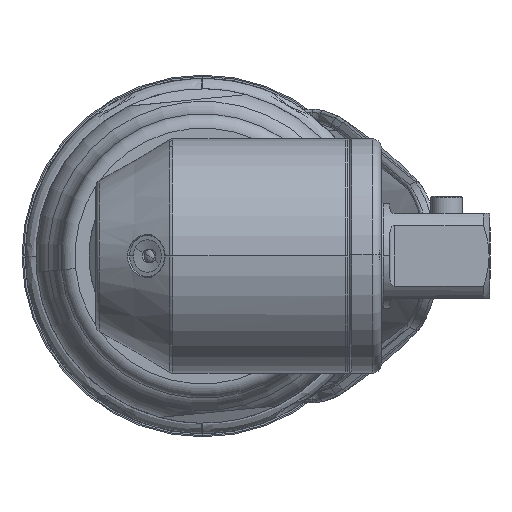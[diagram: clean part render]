
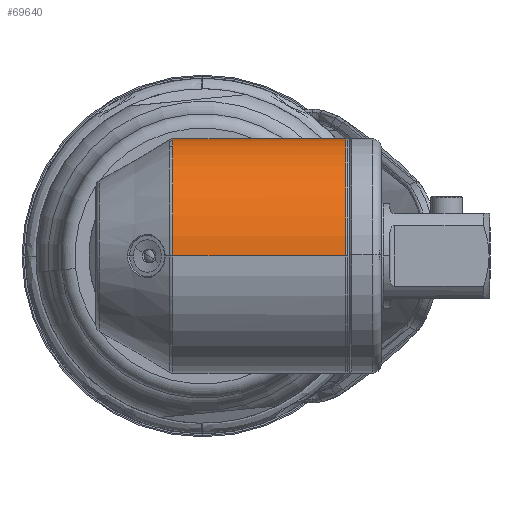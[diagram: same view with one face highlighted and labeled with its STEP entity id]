
A CAD part, left-side view. The second image highlights one B-rep face of the part: STEP entity #69640.
In plain terms, the highlighted cylindrical face has radius 13.081 mm (diameter 26.162 mm), a partial arc.
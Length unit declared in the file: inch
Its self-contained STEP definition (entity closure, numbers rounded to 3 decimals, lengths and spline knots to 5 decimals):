
#13964 = VERTEX_POINT ( 'NONE', #43917 ) ;
#13991 = VERTEX_POINT ( 'NONE', #43944 ) ;
#14472 = VERTEX_POINT ( 'NONE', #44565 ) ;
#14514 = VERTEX_POINT ( 'NONE', #44607 ) ;
#14524 = VERTEX_POINT ( 'NONE', #44619 ) ;
#26948 = EDGE_CURVE ( 'NONE', #13991, #14514, #34604, .T. ) ;
#26949 = EDGE_CURVE ( 'NONE', #14514, #14472, #34603, .T. ) ;
#26950 = EDGE_CURVE ( 'NONE', #14472, #13964, #38869, .T. ) ;
#26951 = EDGE_CURVE ( 'NONE', #13964, #14524, #34607, .T. ) ;
#26952 = EDGE_CURVE ( 'NONE', #13991, #14524, #34605, .T. ) ;
#28052 = ORIENTED_EDGE ( 'NONE', *, *, #26948, .T. ) ;
#28055 = ORIENTED_EDGE ( 'NONE', *, *, #26951, .T. ) ;
#28063 = ORIENTED_EDGE ( 'NONE', *, *, #26949, .T. ) ;
#28072 = ORIENTED_EDGE ( 'NONE', *, *, #26952, .F. ) ;
#28114 = ORIENTED_EDGE ( 'NONE', *, *, #26950, .T. ) ;
#34603 = LINE ( 'NONE', #48445, #34606 ) ;
#34604 = CIRCLE ( 'NONE', #39242, 0.515 ) ;
#34605 = LINE ( 'NONE', #48457, #34609 ) ;
#34606 = VECTOR ( 'NONE', #48392, 39.37008 ) ;
#34607 = CIRCLE ( 'NONE', #39243, 0.515 ) ;
#34609 = VECTOR ( 'NONE', #48455, 39.37008 ) ;
#38869 = B_SPLINE_CURVE_WITH_KNOTS ( 'NONE', 3,
 ( #48444, #48442, #48459, #48460, #48462, #48464, #48466, #48467, #48468, #48471, #48473, #48475, #48477, #48479, #48481, #48484, #48487, #48488, #48490, #48492, #48495, #48497, #48499, #48501, #48503, #48505, #48508, #48510, #48512, #48514, #48515, #48517, #48519, #48521, #48524, #48525, #48527, #48529 ),
 .UNSPECIFIED., .F., .F.,
 ( 4, 2, 2, 2, 2, 2, 2, 2, 2, 2, 2, 2, 2, 2, 2, 2, 2, 2, 4 ),
 ( 0.02716, 0.02886, 0.03056, 0.03226, 0.03395, 0.03565, 0.03735, 0.03905, 0.04074, 0.04414, 0.04583, 0.04753, 0.04838, 0.04923, 0.05008, 0.05093, 0.05177, 0.05262, 0.05432 ),
 .UNSPECIFIED. ) ;
#39242 = AXIS2_PLACEMENT_3D ( 'NONE', #48447, #48449, #48451 ) ;
#39243 = AXIS2_PLACEMENT_3D ( 'NONE', #48536, #48538, #48539 ) ;
#42090 = EDGE_LOOP ( 'NONE', ( #28052, #28063, #28114, #28055, #28072 ) ) ;
#43917 = CARTESIAN_POINT ( 'NONE',  ( -9.89627, 0.13196, 0.48505 ) ) ;
#43944 = CARTESIAN_POINT ( 'NONE',  ( -10.58432, -0.6275, 0. ) ) ;
#44565 = CARTESIAN_POINT ( 'NONE',  ( -9.55432, -0.53, 0. ) ) ;
#44607 = CARTESIAN_POINT ( 'NONE',  ( -9.55432, -0.6275, 0. ) ) ;
#44619 = CARTESIAN_POINT ( 'NONE',  ( -10.58432, 0.13196, 0. ) ) ;
#47090 = FACE_OUTER_BOUND ( 'NONE', #42090, .T. ) ;
#47099 = CYLINDRICAL_SURFACE ( 'NONE', #55500, 0.515 ) ;
#48392 = DIRECTION ( 'NONE',  ( 0., 1., 0. ) ) ;
#48442 = CARTESIAN_POINT ( 'NONE',  ( -9.55432, -0.53, 0.02239 ) ) ;
#48444 = CARTESIAN_POINT ( 'NONE',  ( -9.55432, -0.53, 0. ) ) ;
#48445 = CARTESIAN_POINT ( 'NONE',  ( -9.55432, -0.6275, 0. ) ) ;
#48447 = CARTESIAN_POINT ( 'NONE',  ( -10.06932, -0.6275, 0. ) ) ;
#48449 = DIRECTION ( 'NONE',  ( 0., 1., 0. ) ) ;
#48451 = DIRECTION ( 'NONE',  ( -1., 0., 0. ) ) ;
#48455 = DIRECTION ( 'NONE',  ( 0., 1., 0. ) ) ;
#48457 = CARTESIAN_POINT ( 'NONE',  ( -10.58432, -0.6275, 0. ) ) ;
#48459 = CARTESIAN_POINT ( 'NONE',  ( -9.55578, -0.52842, 0.0444 ) ) ;
#48460 = CARTESIAN_POINT ( 'NONE',  ( -9.56138, -0.52232, 0.08773 ) ) ;
#48462 = CARTESIAN_POINT ( 'NONE',  ( -9.56555, -0.51777, 0.10912 ) ) ;
#48464 = CARTESIAN_POINT ( 'NONE',  ( -9.57644, -0.5059, 0.15085 ) ) ;
#48466 = CARTESIAN_POINT ( 'NONE',  ( -9.58308, -0.49866, 0.17091 ) ) ;
#48467 = CARTESIAN_POINT ( 'NONE',  ( -9.59817, -0.48216, 0.20896 ) ) ;
#48468 = CARTESIAN_POINT ( 'NONE',  ( -9.60667, -0.47286, 0.22707 ) ) ;
#48471 = CARTESIAN_POINT ( 'NONE',  ( -9.6253, -0.45241, 0.26165 ) ) ;
#48473 = CARTESIAN_POINT ( 'NONE',  ( -9.63551, -0.44119, 0.27817 ) ) ;
#48475 = CARTESIAN_POINT ( 'NONE',  ( -9.65686, -0.41763, 0.30895 ) ) ;
#48477 = CARTESIAN_POINT ( 'NONE',  ( -9.66806, -0.40523, 0.32331 ) ) ;
#48479 = CARTESIAN_POINT ( 'NONE',  ( -9.69134, -0.37933, 0.35025 ) ) ;
#48481 = CARTESIAN_POINT ( 'NONE',  ( -9.70343, -0.36583, 0.36282 ) ) ;
#48484 = CARTESIAN_POINT ( 'NONE',  ( -9.72836, -0.33778, 0.38634 ) ) ;
#48487 = CARTESIAN_POINT ( 'NONE',  ( -9.74123, -0.3232, 0.3973 ) ) ;
#48488 = CARTESIAN_POINT ( 'NONE',  ( -9.78012, -0.27869, 0.42739 ) ) ;
#48490 = CARTESIAN_POINT ( 'NONE',  ( -9.80667, -0.2478, 0.44399 ) ) ;
#48492 = CARTESIAN_POINT ( 'NONE',  ( -9.84632, -0.19909, 0.46445 ) ) ;
#48495 = CARTESIAN_POINT ( 'NONE',  ( -9.8595, -0.18245, 0.47053 ) ) ;
#48497 = CARTESIAN_POINT ( 'NONE',  ( -9.88532, -0.14799, 0.48121 ) ) ;
#48499 = CARTESIAN_POINT ( 'NONE',  ( -9.89795, -0.13022, 0.4858 ) ) ;
#48501 = CARTESIAN_POINT ( 'NONE',  ( -9.91525, -0.10251, 0.49145 ) ) ;
#48503 = CARTESIAN_POINT ( 'NONE',  ( -9.92075, -0.09307, 0.49313 ) ) ;
#48505 = CARTESIAN_POINT ( 'NONE',  ( -9.93085, -0.07359, 0.49606 ) ) ;
#48508 = CARTESIAN_POINT ( 'NONE',  ( -9.93547, -0.06351, 0.49732 ) ) ;
#48510 = CARTESIAN_POINT ( 'NONE',  ( -9.9431, -0.04254, 0.49931 ) ) ;
#48512 = CARTESIAN_POINT ( 'NONE',  ( -9.94604, -0.03184, 0.50003 ) ) ;
#48514 = CARTESIAN_POINT ( 'NONE',  ( -9.94941, -0.00984, 0.50085 ) ) ;
#48515 = CARTESIAN_POINT ( 'NONE',  ( -9.94977, 0.00153, 0.50093 ) ) ;
#48517 = CARTESIAN_POINT ( 'NONE',  ( -9.94772, 0.02359, 0.50044 ) ) ;
#48519 = CARTESIAN_POINT ( 'NONE',  ( -9.94533, 0.03452, 0.49986 ) ) ;
#48521 = CARTESIAN_POINT ( 'NONE',  ( -9.9386, 0.0558, 0.49814 ) ) ;
#48524 = CARTESIAN_POINT ( 'NONE',  ( -9.93435, 0.06594, 0.49702 ) ) ;
#48525 = CARTESIAN_POINT ( 'NONE',  ( -9.92006, 0.09546, 0.49299 ) ) ;
#48527 = CARTESIAN_POINT ( 'NONE',  ( -9.90852, 0.11396, 0.48943 ) ) ;
#48529 = CARTESIAN_POINT ( 'NONE',  ( -9.89627, 0.13196, 0.48505 ) ) ;
#48536 = CARTESIAN_POINT ( 'NONE',  ( -10.06932, 0.13196, 0. ) ) ;
#48538 = DIRECTION ( 'NONE',  ( 0., -1., 0. ) ) ;
#48539 = DIRECTION ( 'NONE',  ( -1., 0., 0. ) ) ;
#55500 = AXIS2_PLACEMENT_3D ( 'NONE', #70194, #70195, #70204 ) ;
#69640 = ADVANCED_FACE ( 'NONE', ( #47090 ), #47099, .T. ) ;
#70194 = CARTESIAN_POINT ( 'NONE',  ( -10.06932, -0.6275, 0. ) ) ;
#70195 = DIRECTION ( 'NONE',  ( 0., 1., 0. ) ) ;
#70204 = DIRECTION ( 'NONE',  ( -1., 0., 0. ) ) ;
